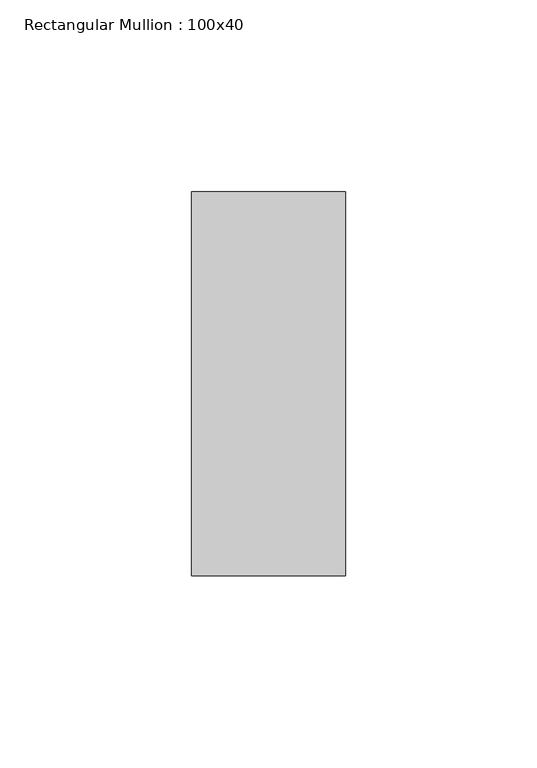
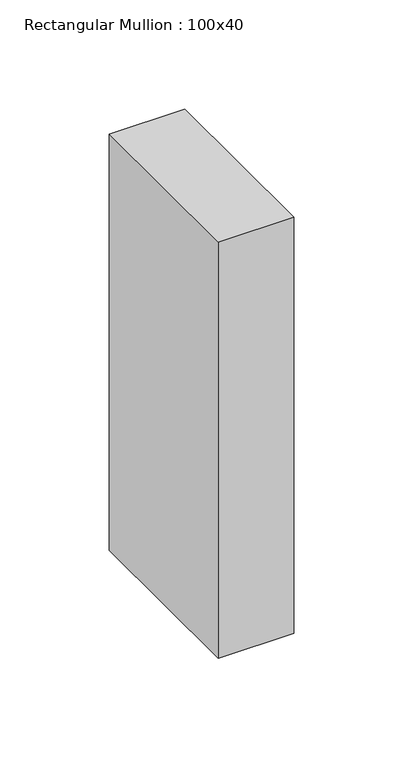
"""IFC4 building model written with IfcOpenShell, lengths in millimetres: member geometry, Rectangular Mullion : 100x40."""

import ifcopenshell
import ifcopenshell.guid

model = None  # the IFC model being written
_history = None  # IfcOwnerHistory: only IFC2X3 demands one
_inside = {}  # id of a spatial element -> (the spatial element, [elements in it])
_under = {}  # id of a project, library or spatial element -> (it, [spatial elements below it])
_declared = {}  # id of a project -> (the project, [libraries it declares])
_typed = {}  # id of a type object -> (the type object, [elements of that type])
_made_of = {}  # id of a material, layer set ... -> (it, [elements and type objects made of it])


def new_model(schema):
    """Start an empty IFC model of exactly this schema.

    Asked for "IFC4X3", IfcOpenShell would pick the latest addendum, in which some entities
    have other attributes; the version numbers below select the first issue.
    IFC2X3 requires an IfcOwnerHistory on every rooted entity: one is made here for all.
    """
    global model, _history
    if schema == "IFC4X3":
        model = ifcopenshell.file(schema_version=(4, 3, 0, 0))
    else:
        model = ifcopenshell.file(schema=schema)
    _inside.clear()
    _under.clear()
    _declared.clear()
    _typed.clear()
    _made_of.clear()
    _history = None
    if model.schema == "IFC2X3":
        org = make("IfcOrganization", Name="unknown")
        user = make(
            "IfcPersonAndOrganization",
            ThePerson=make("IfcPerson", FamilyName="unknown"),
            TheOrganization=org,
        )
        app = make(
            "IfcApplication",
            ApplicationDeveloper=org,
            Version="unknown",
            ApplicationFullName="unknown",
            ApplicationIdentifier="unknown",
        )
        _history = make(
            "IfcOwnerHistory",
            OwningUser=user,
            OwningApplication=app,
            ChangeAction="ADDED",
            CreationDate=0,
        )
    return model


def make(cls, **values):
    """One entity of the class cls with the attributes given. An attribute that is None is left unset."""
    return model.create_entity(
        cls, **{name: value for name, value in values.items() if value is not None}
    )


def rooted(cls, **values):
    """An entity with a GlobalId (a new one), such as an element, a storey or a relation."""
    return make(cls, GlobalId=ifcopenshell.guid.new(), OwnerHistory=_history, **values)


def si_unit(unit_type, name, prefix=None):
    """IfcSIUnit, for example si_unit("LENGTHUNIT", "METRE", prefix="MILLI")."""
    return make("IfcSIUnit", UnitType=unit_type, Prefix=prefix, Name=name)


def assignment(units):
    """IfcUnitAssignment: the units of a project."""
    return None if units is None else make("IfcUnitAssignment", Units=units)


def point(xyz):
    """IfcCartesianPoint."""
    return None if xyz is None else make("IfcCartesianPoint", Coordinates=xyz)


def direction(xyz):
    """IfcDirection."""
    return None if xyz is None else make("IfcDirection", DirectionRatios=xyz)


def frame(location, z_axis=None, x_axis=None):
    """IfcAxis2Placement3D, a coordinate frame: its origin and axes. An axis left out is left unset."""
    return make(
        "IfcAxis2Placement3D",
        Location=point(location),
        Axis=direction(z_axis),
        RefDirection=direction(x_axis),
    )


def origin():
    """The frame at (0, 0, 0) with its axes left unset."""
    return frame((0.0, 0.0, 0.0))


def place(relative_to, where):
    """IfcLocalPlacement: puts the frame where relative to a parent placement (None: the world)."""
    return make(
        "IfcLocalPlacement", PlacementRelTo=relative_to, RelativePlacement=where
    )


def context(
    kind, dimensions, precision=None, world=None, true_north=None, identifier=None
):
    """IfcGeometricRepresentationContext, for example the 3D "Model" context."""
    return make(
        "IfcGeometricRepresentationContext",
        ContextIdentifier=identifier,
        ContextType=kind,
        CoordinateSpaceDimension=dimensions,
        Precision=precision,
        WorldCoordinateSystem=world,
        TrueNorth=true_north,
    )


def project(units=None, contexts=None):
    """IfcProject with its units and contexts."""
    return rooted(
        "IfcProject",
        Name="project",
        RepresentationContexts=contexts,
        UnitsInContext=assignment(units),
    )


def spatial(cls, under=None, at=None, **own):
    """A site, building, storey or space (cls), placed at a placement, below another one or the project."""
    s = rooted(cls, ObjectPlacement=at, **own)
    if under is not None:
        _under.setdefault(under.id(), (under, []))[1].append(s)
    return s


def polyline(points):
    """IfcPolyline through the points."""
    return make("IfcPolyline", Points=[point(p) for p in points])


def outline(outer, holes=None, kind="AREA"):
    """IfcArbitraryClosedProfileDef: a profile drawn as a closed curve; with holes, ...WithVoids."""
    if holes is None:
        return make("IfcArbitraryClosedProfileDef", ProfileType=kind, OuterCurve=outer)
    return make(
        "IfcArbitraryProfileDefWithVoids",
        ProfileType=kind,
        OuterCurve=outer,
        InnerCurves=holes,
    )


def extrude(swept, where, along, depth):
    """IfcExtrudedAreaSolid: the profile swept, set in the frame where, extruded along a direction by depth."""
    return make(
        "IfcExtrudedAreaSolid",
        SweptArea=swept,
        Position=where,
        ExtrudedDirection=direction(along),
        Depth=depth,
    )


def shape(context_of_items, identifier, shape_type, items):
    """IfcShapeRepresentation: the items that make up one representation, for example the "Body"."""
    return make(
        "IfcShapeRepresentation",
        ContextOfItems=context_of_items,
        RepresentationIdentifier=identifier,
        RepresentationType=shape_type,
        Items=items,
    )


def source(mapping_origin, context_of_items, identifier, shape_type, items):
    """IfcRepresentationMap: a shape defined once, which mapped items show again and again."""
    return make(
        "IfcRepresentationMap",
        MappingOrigin=mapping_origin,
        MappedRepresentation=shape(context_of_items, identifier, shape_type, items),
    )


def transform(
    local_origin,
    x_axis=None,
    y_axis=None,
    z_axis=None,
    scale=None,
    scale2=None,
    scale3=None,
    uniform=True,
):
    """IfcCartesianTransformationOperator3D, or its non-uniform kind. x_axis, y_axis, z_axis: its Axis1, 2, 3."""
    if uniform:
        return make(
            "IfcCartesianTransformationOperator3D",
            Axis1=direction(x_axis),
            Axis2=direction(y_axis),
            LocalOrigin=point(local_origin),
            Scale=scale,
            Axis3=direction(z_axis),
        )
    return make(
        "IfcCartesianTransformationOperator3DnonUniform",
        Axis1=direction(x_axis),
        Axis2=direction(y_axis),
        LocalOrigin=point(local_origin),
        Scale=scale,
        Axis3=direction(z_axis),
        Scale2=scale2,
        Scale3=scale3,
    )


def mapped(mapping_source, mapping_target):
    """IfcMappedItem: shows the shape of a source again, moved by a transform."""
    return make(
        "IfcMappedItem", MappingSource=mapping_source, MappingTarget=mapping_target
    )


def made_of(thing, what):
    """Note that an element or type object is made of a material, layer set ...; save() writes the relation."""
    if what is not None:
        _made_of.setdefault(what.id(), (what, []))[1].append(thing)
    return thing


def element(
    cls,
    number,
    at=None,
    inside=None,
    cuts=None,
    type_object=None,
    material=None,
    context=None,
    identifier="Body",
    shape_type=None,
    held_by="IfcProductDefinitionShape",
    body=None,
    shapes=None,
    **own,
):
    """One element of the class cls, such as IfcWall. Its Tag is "e" and its number.

    at: its placement. inside: the storey or other place that contains it. cuts: it is an
    opening in that element (IfcRelVoidsElement). A single representation is given by context,
    identifier, shape_type and body (its items); several are given by shapes. held_by: the class
    of the entity that holds the representations. save() writes the other relations.
    """
    e = rooted(cls, Tag="e%d" % number, ObjectPlacement=at, **own)
    if body is not None:
        shapes = [shape(context, identifier, shape_type, body)]
    if shapes is not None:
        e.Representation = make(held_by, Representations=shapes)
    if inside is not None:
        _inside.setdefault(inside.id(), (inside, []))[1].append(e)
    if cuts is not None:
        rooted(
            "IfcRelVoidsElement", RelatingBuildingElement=cuts, RelatedOpeningElement=e
        )
    if type_object is not None:
        _typed.setdefault(type_object.id(), (type_object, []))[1].append(e)
    return made_of(e, material)


def aggregate(whole, parts):
    """IfcRelAggregates: a whole, such as a stair, and the parts it consists of."""
    return rooted("IfcRelAggregates", RelatingObject=whole, RelatedObjects=parts)


def save(model, path):
    """Write the relations noted so far, then the file.

    IfcRelAggregates (storeys below a building ...), IfcRelContainedInSpatialStructure (elements
    in a storey), IfcRelDefinesByType, IfcRelAssociatesMaterial and IfcRelDeclares: one each for
    every whole, place, type object, material and project.
    """
    for whole, parts in _under.values():
        aggregate(whole, parts)
    for where, things in _inside.values():
        rooted(
            "IfcRelContainedInSpatialStructure",
            RelatedElements=things,
            RelatingStructure=where,
        )
    for kind, things in _typed.values():
        rooted("IfcRelDefinesByType", RelatedObjects=things, RelatingType=kind)
    for what, things in _made_of.values():
        rooted("IfcRelAssociatesMaterial", RelatedObjects=things, RelatingMaterial=what)
    for by, libraries in _declared.values():
        rooted("IfcRelDeclares", RelatingContext=by, RelatedDefinitions=libraries)
    model.write(path)


def rectangular_mullion_100x40_fcd321e6(model_context):
    return source(origin(), model_context, "Body", "SweptSolid", [
        extrude(outline(polyline([(0.0, 50.0), (0.0, -50.0), (-40.0, -50.0), (-40.0, 50.0), (0.0, 50.0)])), frame((0.0, 0.0, -233.0), z_axis=(0.0, 0.0, 1.0), x_axis=(1.0, 0.0, 0.0)), (0.0, 0.0, 1.0), 233.0),
    ])


if __name__ == "__main__":
    model = new_model("IFC4")
    model_context = context("Model", 3, world=origin())
    ifc_project = project(units=[si_unit("LENGTHUNIT", "METRE", prefix="MILLI")], contexts=[model_context])
    site = spatial("IfcSite", under=ifc_project)
    building = spatial("IfcBuilding", under=site)
    placement = place(None, origin())
    rectangular_mullion_100x40_shape = rectangular_mullion_100x40_fcd321e6(model_context)
    element("IfcMember", 1, ObjectType="Rectangular Mullion : 100x40", at=placement, inside=building, context=model_context, shape_type="MappedRepresentation", body=[
        mapped(rectangular_mullion_100x40_shape, transform((0.0, 0.0, 0.0), x_axis=(1.0, 0.0, 0.0), y_axis=(0.0, 1.0, 0.0), z_axis=(0.0, 0.0, 1.0))),
    ])
    save(model, "model.ifc")
